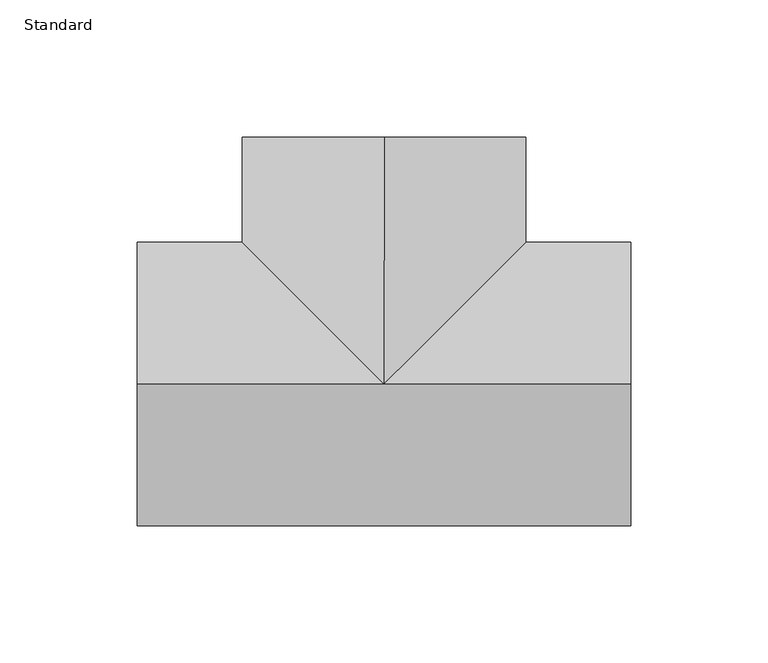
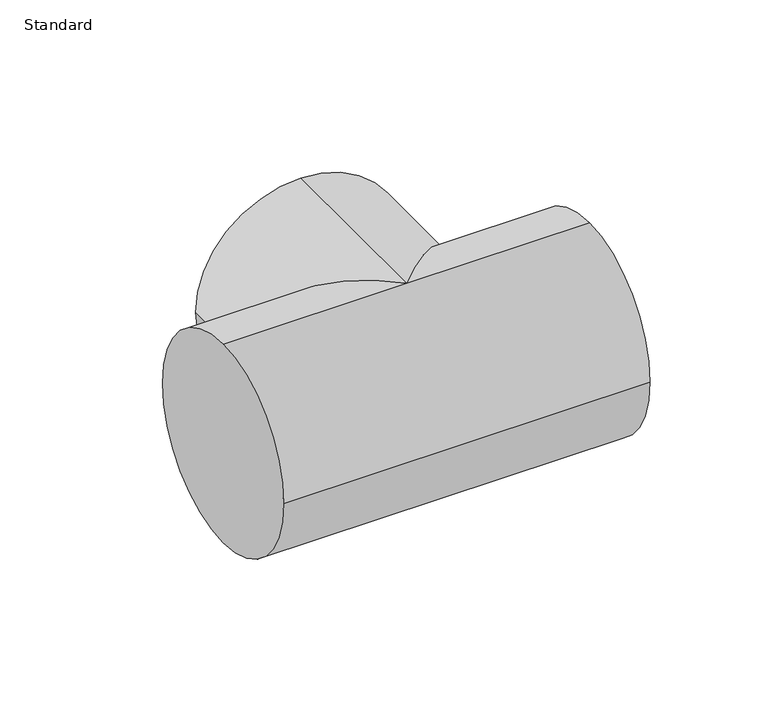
"""IFC4 building model written with IfcOpenShell, lengths in millimetres: pipe fitting geometry, Té PVC-C Pression PN 16 : Standard."""

from ifc_helpers import new_model, si_unit, frame, origin, place, context, project, spatial, circle_curve, ellipse_curve, source, transform, mapped, element, save
from ifc_brep_helpers import plane_surface, cylinder_surface, advanced_brep


def standard_fcc2b165(model_context):
    return source(origin(), model_context, "Body", "AdvancedBrep", [
        advanced_brep(
        [(0.0, 90.0, 51.6), (51.6, 90.0, 0.0), (0.0, 90.0, -51.6), (-51.6, 90.0, 0.0), (-51.6, 51.6, 0.0), (0.0, 0.0, 51.6), (0.0, 0.0, -51.6), (51.6, 51.6, 0.0), (-90.0, 0.0, 51.6), (-90.0, 51.6, 0.0), (-90.0, 0.0, -51.6), (-90.0, -51.6, 0.0), (90.0, 0.0, 51.6), (90.0, -51.6, 0.0), (90.0, 0.0, -51.6), (90.0, 51.6, 0.0)],
        [
            (0, 1, circle_curve(frame((0.0, 90.0, 0.0), z_axis=(0.0, 1.0, 0.0), x_axis=(-1.0, 0.0, 0.0)), 51.6)),
            (1, 2, circle_curve(frame((0.0, 90.0, 0.0), z_axis=(0.0, 1.0, 0.0), x_axis=(-1.0, 0.0, 0.0)), 51.6)),
            (2, 3, circle_curve(frame((0.0, 90.0, 0.0), z_axis=(0.0, 1.0, 0.0), x_axis=(-1.0, 0.0, 0.0)), 51.6)),
            (3, 0, circle_curve(frame((0.0, 90.0, 0.0), z_axis=(0.0, 1.0, 0.0), x_axis=(-1.0, 0.0, 0.0)), 51.6)),
            (3, 4),
            (4, 5, ellipse_curve(frame((0.0, 0.0, 0.0), z_axis=(0.7071067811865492, 0.7071067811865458, 0.0), x_axis=(0.7071067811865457, -0.7071067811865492, 0.0)), 72.9734198, 51.6)),
            (5, 0),
            (2, 6),
            (6, 4, ellipse_curve(frame((0.0, 0.0, 0.0), z_axis=(0.7071067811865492, 0.7071067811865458, 0.0), x_axis=(0.7071067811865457, -0.7071067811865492, 0.0)), 72.9734198, 51.6)),
            (1, 7),
            (7, 6, ellipse_curve(frame((0.0, 0.0, 0.0), z_axis=(-0.7071067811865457, 0.7071067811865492, 0.0), x_axis=(-0.7071067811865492, -0.7071067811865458, 0.0)), 72.9734198, 51.6)),
            (5, 7, ellipse_curve(frame((0.0, 0.0, 0.0), z_axis=(-0.7071067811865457, 0.7071067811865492, 0.0), x_axis=(-0.7071067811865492, -0.7071067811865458, 0.0)), 72.9734198, 51.6)),
            (8, 9, circle_curve(frame((-90.0, 0.0, 0.0), z_axis=(-1.0, 0.0, 0.0), x_axis=(0.0, 1.0, 0.0)), 51.6)),
            (9, 10, circle_curve(frame((-90.0, 0.0, 0.0), z_axis=(-1.0, 0.0, 0.0), x_axis=(0.0, 1.0, 0.0)), 51.6)),
            (10, 11, circle_curve(frame((-90.0, 0.0, 0.0), z_axis=(-1.0, 0.0, 0.0), x_axis=(0.0, 1.0, 0.0)), 51.6)),
            (11, 8, circle_curve(frame((-90.0, 0.0, 0.0), z_axis=(-1.0, 0.0, 0.0), x_axis=(0.0, 1.0, 0.0)), 51.6)),
            (12, 13, circle_curve(frame((90.0, 0.0, 0.0), z_axis=(1.0, 0.0, 0.0), x_axis=(0.0, 1.0, 0.0)), 51.6)),
            (13, 14, circle_curve(frame((90.0, 0.0, 0.0), z_axis=(1.0, 0.0, 0.0), x_axis=(0.0, 1.0, 0.0)), 51.6)),
            (14, 15, circle_curve(frame((90.0, 0.0, 0.0), z_axis=(1.0, 0.0, 0.0), x_axis=(0.0, 1.0, 0.0)), 51.6)),
            (15, 12, circle_curve(frame((90.0, 0.0, 0.0), z_axis=(1.0, 0.0, 0.0), x_axis=(0.0, 1.0, 0.0)), 51.6)),
            (8, 5),
            (4, 9),
            (15, 7),
            (5, 12),
            (6, 10),
            (14, 6),
            (13, 11),
        ],
        [
            plane_surface(frame((0.0, 90.0, 0.0), z_axis=(0.0, 1.0, 0.0), x_axis=(0.0, 0.0, 1.0))),
            cylinder_surface(frame((0.0, 0.0, 0.0), z_axis=(0.0, -1.0, 0.0), x_axis=(-1.0, 0.0, 0.0)), 51.6),
            plane_surface(frame((-90.0, 0.0, 0.0), z_axis=(-1.0, 0.0, 0.0), x_axis=(0.0, 0.0, 1.0))),
            plane_surface(frame((90.0, 0.0, 0.0), z_axis=(1.0, 0.0, 0.0), x_axis=(0.0, 0.0, 1.0))),
            cylinder_surface(frame((-90.0, 0.0, 0.0), z_axis=(-1.0, 0.0, 0.0), x_axis=(0.0, 1.0, 0.0)), 51.6),
        ],
        [
            (0, [[1, 2, 3, 4]]),
            (1, [[-4, 5, 6, 7]]),
            (1, [[-3, 8, 9, -5]]),
            (1, [[-2, 10, 11, -8]]),
            (1, [[-1, -7, 12, -10]]),
            (2, [[13, 14, 15, 16]]),
            (3, [[17, 18, 19, 20]]),
            (4, [[-13, 21, -6, 22]]),
            (4, [[-20, 23, -12, 24]]),
            (4, [[-14, -22, -9, 25]]),
            (4, [[-19, 26, -11, -23]]),
            (4, [[-15, -25, -26, -18, 27]]),
            (4, [[-16, -27, -17, -24, -21]]),
        ],
    ),
    ])


if __name__ == "__main__":
    model = new_model("IFC4")
    model_context = context("Model", 3, world=origin())
    ifc_project = project(units=[si_unit("LENGTHUNIT", "METRE", prefix="MILLI")], contexts=[model_context])
    site = spatial("IfcSite", under=ifc_project)
    building = spatial("IfcBuilding", under=site)
    placement = place(None, origin())
    standard_shape = standard_fcc2b165(model_context)
    element("IfcPipeFitting", 1, ObjectType="Té PVC-C Pression PN 16 : Standard", at=placement, inside=building, context=model_context, shape_type="MappedRepresentation", body=[
        mapped(standard_shape, transform((0.0, 0.0, 0.0), x_axis=(1.0, 0.0, 0.0), y_axis=(0.0, 1.0, 0.0), z_axis=(0.0, 0.0, 1.0))),
    ])
    save(model, "model.ifc")
